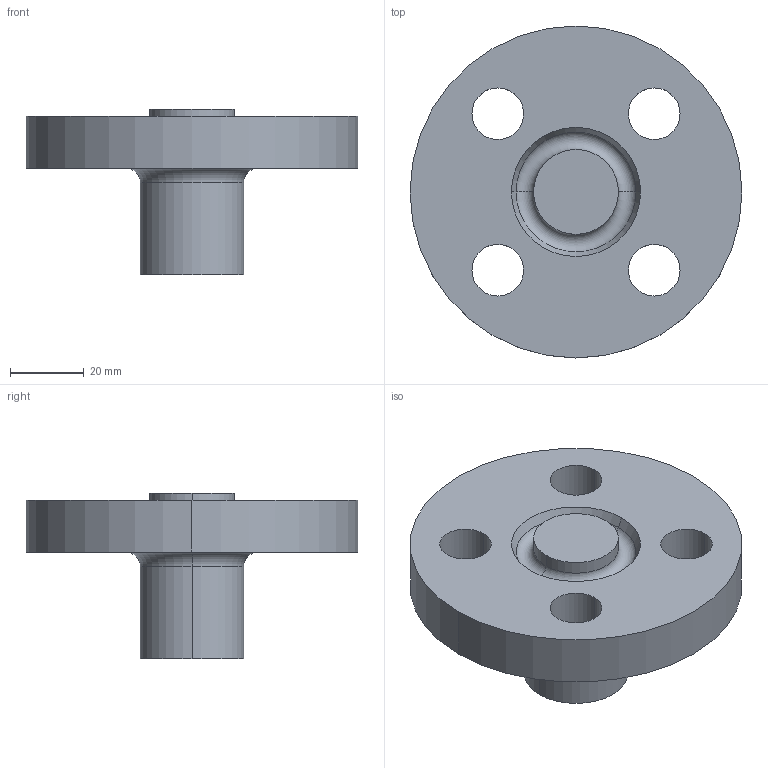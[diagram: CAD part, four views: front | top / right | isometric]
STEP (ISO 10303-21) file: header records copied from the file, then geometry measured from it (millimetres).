
FILE_DESCRIPTION (( 'STEP AP214' ), '1' );
FILE_NAME ('PN40 DN10 Type 21(i) - Type H Face.STEP', '2018-12-29T05:06:47', ( '' ), ( '' ), 'SwSTEP 2.0', 'SolidWorks 2019', '' );
FILE_SCHEMA (( 'AUTOMOTIVE_DESIGN' ));
Length unit declared in the file: millimetre
Products named in the file (1): PN40 DN10 Type 21(i) - Type H Face
Bounding box: 90 x 90 x 45 mm (x, y, z)
Volume: 97817.3 mm3; surface area: 20906.2 mm2
Topology: 1 solids, 1 shells, 24 faces, 54 edges, 34 vertices
Faces by surface type: cylinder 14, torus 4, plane 4, cone 2
Entity records: 738 total; most frequent: DIRECTION 142, CARTESIAN_POINT 113, ORIENTED_EDGE 108, AXIS2_PLACEMENT_3D 63, EDGE_CURVE 54, CIRCLE 38, VERTEX_POINT 34, EDGE_LOOP 34
